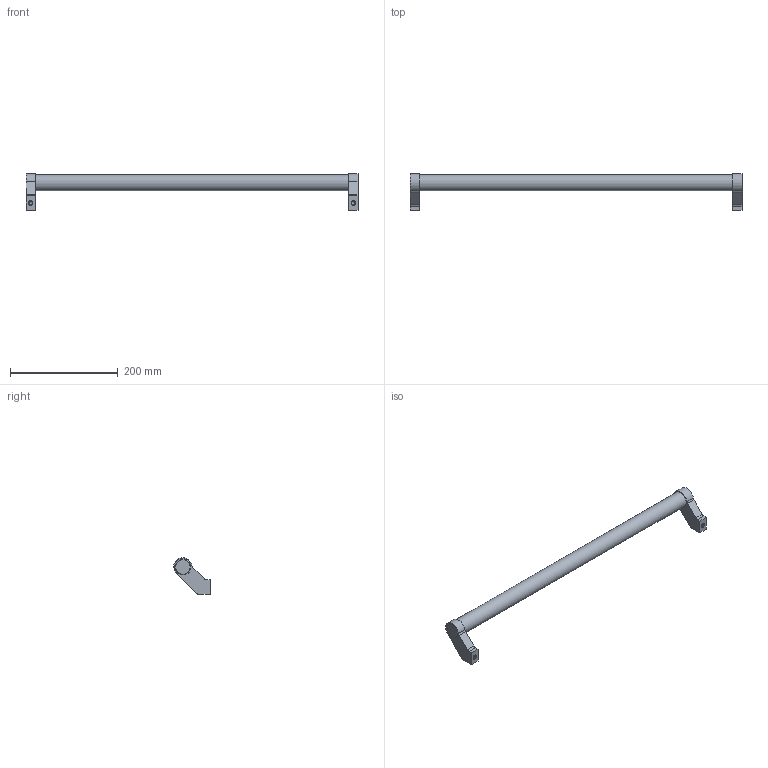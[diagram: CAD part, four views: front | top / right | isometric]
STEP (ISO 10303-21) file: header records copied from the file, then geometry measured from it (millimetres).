
FILE_DESCRIPTION( ( 'STEP AP203' ), '1' );
FILE_NAME( 'C:/Temp/Ganter_Step_05_03_2020/data/1_2/gn333/Tubular handle GN 333-30-600-A-ES.stp', '2020-03-05T10:16:25', ( 'License CC BY-ND 4.0' ), ( 'CADENAS' ), ' ', 'PARTsolutions', ' ' );
FILE_SCHEMA( ( 'CONFIG_CONTROL_DESIGN' ) );
Length unit declared in the file: millimetre
Products named in the file (1): _Tubular handle GN 333-30-600-A-ES
Bounding box: 617 x 67.96 x 67.99 mm (x, y, z)
Volume: 493663 mm3; surface area: 71887.6 mm2
Topology: 1 solids, 1 shells, 47 faces, 108 edges, 69 vertices
Faces by surface type: plane 26, cylinder 15, cone 4, torus 2
Full cylindrical faces by diameter (mm): 6.647 x2, 8.5 x2, 30 x3
Entity records: 1326 total; most frequent: CARTESIAN_POINT 270, DIRECTION 216, ORIENTED_EDGE 184, EDGE_CURVE 92, AXIS2_PLACEMENT_3D 84, VERTEX_POINT 66, EDGE_LOOP 64, FACE_OUTER_BOUND 54
